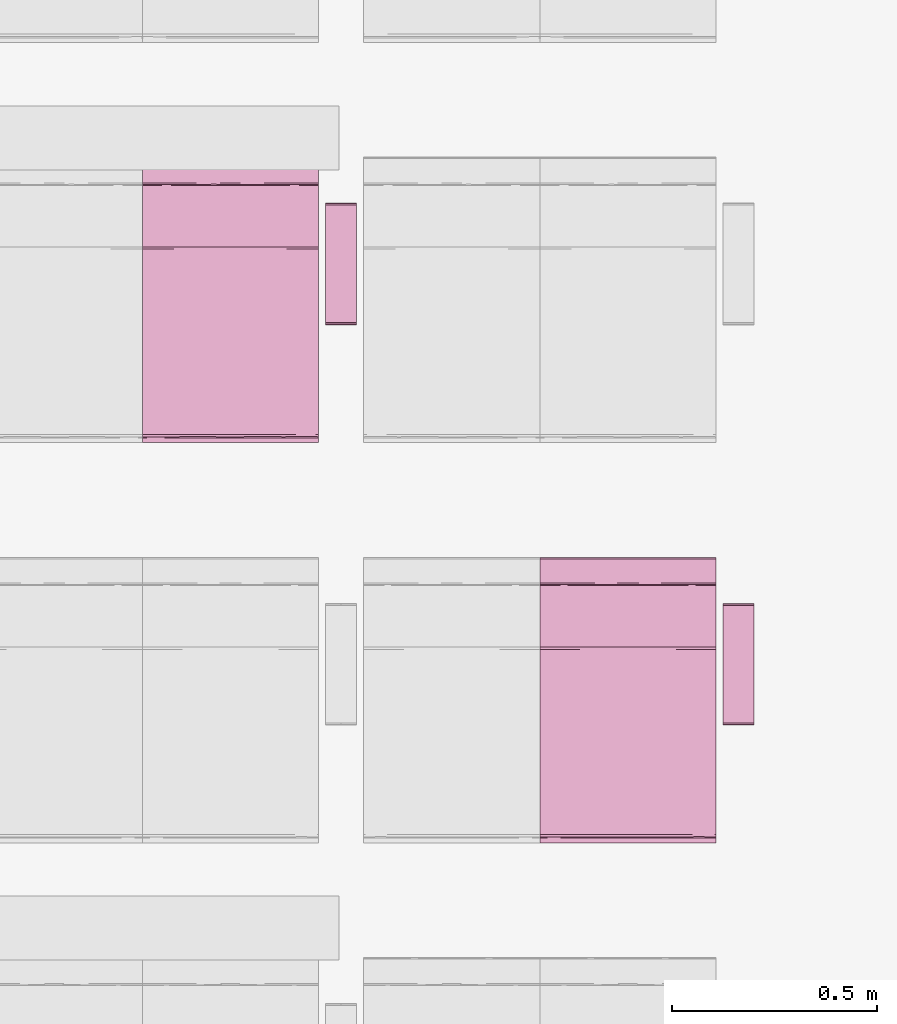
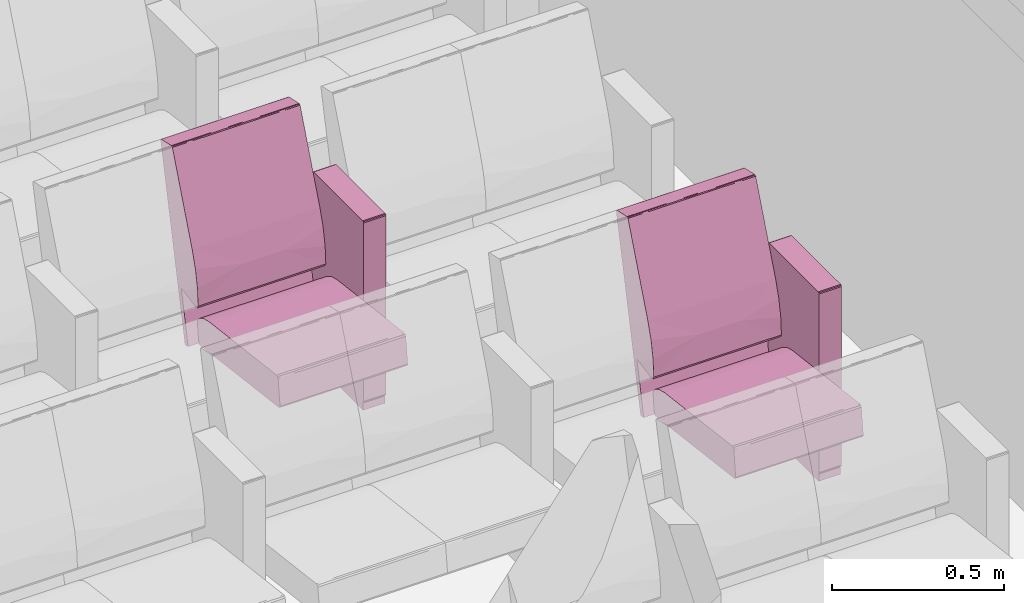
# One storey, part 137 of 155: 2 furnishings.
"""IFC2X3 building model written with IfcOpenShell, lengths in metres."""

from ifc_helpers import new_model, entity, si_unit, converted_unit, derived_unit, direction, frame, origin, place, context, subcontext, project, spatial, faceted_brep, source, transform, mapped, material, material_list, type_object, type_shapes, element, save


model = new_model("IFC2X3")

# Units and contexts
model_context = context("Model", 3, precision=1e-05, world=origin(), true_north=direction((6.12303176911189e-17, 1.0)))
body_context = subcontext(model_context, "Body", "Model", "MODEL_VIEW")
ifc_project = project(units=[si_unit("LENGTHUNIT", "METRE"), si_unit("AREAUNIT", "SQUARE_METRE"), si_unit("VOLUMEUNIT", "CUBIC_METRE"), converted_unit("PLANEANGLEUNIT", "DEGREE", entity("IfcRatioMeasure", 0.0174532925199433), si_unit("PLANEANGLEUNIT", "RADIAN"), dimensions=[0, 0, 0, 0, 0, 0, 0]), si_unit("MASSUNIT", "GRAM", prefix="KILO"), derived_unit("MASSDENSITYUNIT", [(si_unit("MASSUNIT", "GRAM", prefix="KILO"), 1), (si_unit("LENGTHUNIT", "METRE"), -3)]), si_unit("TIMEUNIT", "SECOND"), si_unit("FREQUENCYUNIT", "HERTZ"), si_unit("THERMODYNAMICTEMPERATUREUNIT", "DEGREE_CELSIUS"), derived_unit("THERMALTRANSMITTANCEUNIT", [(si_unit("MASSUNIT", "GRAM", prefix="KILO"), 1), (si_unit("THERMODYNAMICTEMPERATUREUNIT", "KELVIN"), -1), (si_unit("TIMEUNIT", "SECOND"), -3)]), derived_unit("VOLUMETRICFLOWRATEUNIT", [(si_unit("LENGTHUNIT", "METRE"), 3), (si_unit("TIMEUNIT", "SECOND"), -1)]), si_unit("ELECTRICCURRENTUNIT", "AMPERE"), si_unit("ELECTRICVOLTAGEUNIT", "VOLT"), si_unit("POWERUNIT", "WATT"), si_unit("FORCEUNIT", "NEWTON", prefix="KILO"), si_unit("ILLUMINANCEUNIT", "LUX"), si_unit("LUMINOUSFLUXUNIT", "LUMEN"), si_unit("LUMINOUSINTENSITYUNIT", "CANDELA"), derived_unit("USERDEFINED", [(si_unit("MASSUNIT", "GRAM", prefix="KILO"), -1), (si_unit("LENGTHUNIT", "METRE"), -2), (si_unit("TIMEUNIT", "SECOND"), 3), (si_unit("LUMINOUSFLUXUNIT", "LUMEN"), 1)]), derived_unit("LINEARVELOCITYUNIT", [(si_unit("LENGTHUNIT", "METRE"), 1), (si_unit("TIMEUNIT", "SECOND"), -1)]), si_unit("PRESSUREUNIT", "PASCAL"), derived_unit("USERDEFINED", [(si_unit("LENGTHUNIT", "METRE"), -2), (si_unit("MASSUNIT", "GRAM", prefix="KILO"), 1), (si_unit("TIMEUNIT", "SECOND"), -2)])], contexts=[model_context])

# Site, building, storey, space
site_placement = place(None, frame((26.9889013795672, -17.5624287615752, 0.0)))
site = spatial("IfcSite", under=ifc_project, at=site_placement, Name="Default", CompositionType="ELEMENT")
building_placement = place(site_placement, origin())
building = spatial("IfcBuilding", under=site, at=building_placement, Name="C. C. L. Monsenhor Antônio Sampaio", CompositionType="ELEMENT")
storey_placement = place(building_placement, frame((0.0, 0.0, 1.19999999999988)))
storey = spatial("IfcBuildingStorey", under=building, at=storey_placement, Name="Nível 1.2", CompositionType="ELEMENT", Elevation=1.19999999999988)
space_placement = place(storey_placement, origin())
space = spatial("IfcSpace", under=storey, at=space_placement, Name="94", CompositionType="ELEMENT", InteriorOrExteriorSpace="INTERNAL")

# Furnishings
ifc_material_1 = material(Name="V9 - V9 - Ecopelle_672_658")
ifc_material_2 = material(Name="V9 - V9 - RAL_9006_Grigio")
ifc_material_list_1 = material_list([ifc_material_1, ifc_material_2])
ifc_material_list_2 = material_list([ifc_material_1, ifc_material_2])
furniture_type = type_object("IfcFurnitureType", Name="Cadeira auditório", material=ifc_material_list_2)
shared_shape = source(origin(), body_context, "Body", "Brep", [
    faceted_brep([(0.405536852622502, -0.1075, 0.339809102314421), (0.410560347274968, -0.131924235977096, 0.34246450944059), (0.405536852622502, -0.156348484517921, 0.339809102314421), (0.41079981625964, -0.0179166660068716, 0.342749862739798), (0.410597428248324, -0.084060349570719, 0.342506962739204), (0.405536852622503, -0.0537499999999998, 0.339809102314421), (0.410248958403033, -0.173608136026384, 0.342130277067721), (0.405536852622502, -0.215, 0.339809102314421), (0.412515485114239, -0.143333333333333, 0.348529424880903), (0.412515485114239, -0.185674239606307, 0.348529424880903), (0.405536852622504, 0.1075, 0.33980910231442), (0.405536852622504, 0.156348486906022, 0.33980910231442), (0.410560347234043, 0.131924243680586, 0.342464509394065), (0.405536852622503, 0.0, 0.33980910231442), (0.411170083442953, 0.0341365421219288, 0.343251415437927), (0.41251548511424, 0.0, 0.348529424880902), (0.412515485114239, -0.0358333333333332, 0.348529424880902), (0.412515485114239, -0.0716666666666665, 0.348529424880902), (0.41251548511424, 0.143333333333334, 0.348529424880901), (0.41059742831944, 0.0840603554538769, 0.342506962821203), (0.405536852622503, 0.0537500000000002, 0.33980910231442), (0.410248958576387, 0.173608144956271, 0.342130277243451), (0.410799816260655, 0.215, 0.342749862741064), (0.412515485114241, 0.185674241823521, 0.348529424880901), (0.412515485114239, -0.215, 0.348529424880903), (0.410799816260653, -0.215, 0.342749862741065), (0.412515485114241, 0.215, 0.348529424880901), (0.41251548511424, 0.0716666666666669, 0.348529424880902), (0.405536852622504, 0.215, 0.33980910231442), (-0.0557900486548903, -0.215, 0.28268145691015), (-0.0557900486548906, -0.1881249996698, 0.282681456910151), (-0.0557900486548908, -0.161250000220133, 0.282681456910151), (-0.055790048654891, -0.134374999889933, 0.282681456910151), (-0.0557900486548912, -0.107499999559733, 0.282681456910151), (-0.0557900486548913, -0.0806250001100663, 0.282681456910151), (-0.0557900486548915, -0.0537499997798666, 0.282681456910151), (-0.0557900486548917, -0.0268749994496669, 0.282681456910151), (-0.0557900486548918, 0.0, 0.28268145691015), (-0.0557900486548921, 0.0268750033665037, 0.282681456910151), (-0.0557900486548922, 0.0537499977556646, 0.282681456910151), (-0.0557900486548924, 0.0806249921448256, 0.282681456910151), (-0.0557900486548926, 0.107499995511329, 0.282681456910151), (-0.0557900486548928, 0.138065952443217, 0.282681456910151), (-0.055790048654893, 0.168631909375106, 0.282681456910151), (-0.0557900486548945, 0.215, 0.28268145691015), (-0.0594787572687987, -0.0179017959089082, 0.283700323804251), (-0.0613666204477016, 0.0, 0.287029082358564), (-0.0594787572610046, 0.0152829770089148, 0.283700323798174), (-0.0594787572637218, -0.215, 0.283700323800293), (-0.0613666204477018, -0.215, 0.287029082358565), (-0.0613666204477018, -0.191815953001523, 0.287029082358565), (-0.0613666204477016, -0.030565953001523, 0.287029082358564), (-0.0593340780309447, -0.0671874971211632, 0.283591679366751), (-0.0593337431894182, 0.184174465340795, 0.283591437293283), (-0.0594787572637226, 0.215, 0.283700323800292), (-0.0593023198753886, 0.0940625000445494, 0.283568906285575), (-0.0613666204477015, 0.0611319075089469, 0.287029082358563), (-0.0613666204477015, 0.0916978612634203, 0.287029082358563), (-0.0613666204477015, 0.122263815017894, 0.287029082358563), (-0.0597338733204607, -0.147039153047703, 0.283913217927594), (-0.0613666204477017, -0.122263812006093, 0.287029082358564), (-0.059382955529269, -0.118123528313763, 0.28362747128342), (-0.0592501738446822, -0.180223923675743, 0.283532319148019), (-0.0613666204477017, -0.168631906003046, 0.287029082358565), (-0.0588783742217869, -0.0926899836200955, 0.283298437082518), (-0.0613666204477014, 0.168631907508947, 0.287029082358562), (-0.0613666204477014, 0.215, 0.287029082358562), (-0.0592576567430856, 0.123736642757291, 0.283537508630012), (-0.0594787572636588, 0.153348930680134, 0.283700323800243), (-0.0613666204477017, -0.0916978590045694, 0.287029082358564), (-0.0613666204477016, 0.0305659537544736, 0.287029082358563), (-0.059645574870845, 0.045848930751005, 0.283836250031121), (-0.0613666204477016, -0.0611319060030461, 0.287029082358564), (-0.0693403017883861, 0.143333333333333, 0.351419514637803), (-0.069340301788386, 0.215, 0.351419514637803), (-0.0693403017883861, -0.215, 0.351419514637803), (-0.0693403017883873, -0.143333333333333, 0.351419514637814), (-0.069340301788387, -0.0716666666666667, 0.351419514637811), (-0.0693403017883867, 0.0, 0.351419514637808), (-0.0693403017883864, 0.0716666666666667, 0.351419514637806), (-0.0653387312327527, -0.0126787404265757, 0.368680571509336), (-0.0645543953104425, -0.112272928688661, 0.369803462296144), (-0.0597085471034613, 0.0, 0.37476954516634), (-0.0655136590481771, 0.104400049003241, 0.368411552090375), (-0.0681665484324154, 0.0888707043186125, 0.36292533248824), (-0.0694879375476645, -0.0590582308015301, 0.356377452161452), (-0.0695056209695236, 0.125492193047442, 0.356093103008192), (-0.0597085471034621, 0.110316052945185, 0.374769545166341), (-0.0676206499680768, -0.215, 0.364371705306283), (-0.0672851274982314, -0.108066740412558, 0.365148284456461), (-0.0690003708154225, -0.132942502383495, 0.359900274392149), (-0.068624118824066, -0.215, 0.356813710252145), (-0.0686241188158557, 0.214999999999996, 0.356813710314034), (-0.0694502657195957, 0.0358333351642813, 0.356863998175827), (-0.0686999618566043, -0.035833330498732, 0.36116674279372), (-0.067620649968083, 0.214999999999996, 0.364371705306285), (-0.063664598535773, 0.214999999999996, 0.369570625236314), (-0.0597085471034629, 0.214999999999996, 0.374769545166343), (-0.0597085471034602, -0.110316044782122, 0.374769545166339), (-0.0636645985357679, -0.215, 0.36957062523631), (-0.0597085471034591, -0.215, 0.374769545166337), (-0.0018793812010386, -0.215, 0.398686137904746), (-0.0324117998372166, -0.0436847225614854, 0.39063968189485), (-0.0324117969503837, -0.215, 0.390639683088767), (-0.041847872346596, 0.0856576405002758, 0.386239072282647), (-0.00187938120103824, 0.102488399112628, 0.398686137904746), (-0.00187938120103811, 0.215, 0.398686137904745), (-0.0324117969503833, 0.215, 0.390639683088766), (-0.0219042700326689, 0.0570631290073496, 0.394412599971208), (-0.00187938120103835, 0.0, 0.398686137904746), (0.392202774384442, -0.215, 0.447486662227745), (0.392202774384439, -0.156349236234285, 0.447486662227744), (0.392202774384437, -0.107499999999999, 0.447486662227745), (0.392202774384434, -0.0537499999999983, 0.447486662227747), (0.392202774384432, 0.0, 0.447486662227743), (0.392202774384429, 0.0537500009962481, 0.44748666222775), (0.392202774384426, 0.107500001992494, 0.447486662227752), (0.392202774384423, 0.156349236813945, 0.447486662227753), (0.392202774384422, 0.215, 0.447486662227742), (0.397860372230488, 0.0827732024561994, 0.446039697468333), (0.401125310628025, 0.0976984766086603, 0.440530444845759), (0.398104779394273, 0.131924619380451, 0.445856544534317), (0.397373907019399, 0.173462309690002, 0.446363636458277), (0.401125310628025, 0.156349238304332, 0.440530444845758), (0.401125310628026, 0.215000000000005, 0.440530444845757), (0.398104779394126, 0.215000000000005, 0.445856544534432), (0.397860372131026, -0.0827731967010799, 0.446039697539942), (0.398104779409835, -0.131924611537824, 0.445856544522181), (0.398104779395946, -0.0268749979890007, 0.445856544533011), (0.398104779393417, 0.0237489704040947, 0.445856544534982), (0.401125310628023, -0.0488492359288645, 0.440530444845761), (0.401125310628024, 0.0488492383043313, 0.44053044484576), (0.398774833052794, -0.173462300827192, 0.445271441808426), (0.401125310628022, -0.0976984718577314, 0.440530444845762), (0.39810477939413, -0.215, 0.445856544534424), (0.401125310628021, -0.215, 0.440530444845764), (0.401125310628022, -0.156349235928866, 0.440530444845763), (0.401125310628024, 0.0, 0.44053044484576)], [[[0, 1, 2]], [[3, 4, 5]], [[2, 6, 7]], [[8, 9, 6]], [[10, 11, 12]], [[13, 3, 5]], [[3, 14, 15]], [[1, 4, 8]], [[6, 1, 8]], [[4, 3, 16]], [[16, 17, 8, 4]], [[12, 18, 19]], [[4, 1, 0]], [[20, 14, 13]], [[21, 22, 23]], [[15, 16, 3]], [[9, 24, 25]], [[26, 23, 22]], [[7, 6, 25]], [[12, 11, 21]], [[19, 14, 20]], [[4, 0, 5]], [[14, 27, 15]], [[13, 14, 3]], [[19, 18, 27]], [[19, 10, 12]], [[18, 21, 23]], [[10, 19, 20]], [[19, 27, 14]], [[2, 1, 6]], [[21, 11, 28]], [[25, 6, 9]], [[18, 12, 21]], [[22, 21, 28]], [[28, 11, 10, 20, 13, 5, 0, 2, 7, 29, 30, 31, 32, 33, 34, 35, 36, 37, 38, 39, 40, 41, 42, 43, 44]], [[45, 46, 47]], [[48, 49, 50]], [[51, 45, 52]], [[53, 54, 44]], [[55, 56, 57, 58]], [[59, 60, 61]], [[62, 63, 59]], [[34, 64, 52]], [[53, 65, 66]], [[41, 67, 42]], [[37, 36, 35, 45, 47, 38]], [[43, 42, 68]], [[29, 48, 30]], [[59, 31, 62]], [[62, 48, 50]], [[61, 69, 64]], [[65, 53, 68]], [[50, 63, 62]], [[62, 30, 48]], [[55, 58, 67]], [[32, 31, 59]], [[46, 70, 47]], [[65, 68, 58]], [[55, 40, 71]], [[70, 56, 71]], [[61, 33, 32]], [[59, 63, 60]], [[39, 38, 71, 40]], [[47, 71, 38]], [[51, 46, 45]], [[70, 71, 47]], [[71, 56, 55]], [[40, 55, 41]], [[67, 68, 42]], [[43, 68, 53]], [[43, 53, 44]], [[66, 54, 53]], [[68, 67, 58]], [[55, 67, 41]], [[72, 51, 52, 69]], [[62, 31, 30]], [[59, 61, 32]], [[35, 52, 45]], [[64, 34, 33]], [[34, 52, 35]], [[61, 60, 69]], [[52, 64, 69]], [[61, 64, 33]], [[73, 74, 66, 65, 58, 57, 56, 70, 46, 51, 72, 69, 60, 63, 50, 49, 75, 76, 77, 78, 79]], [[80, 81, 82]], [[83, 84, 80]], [[85, 78, 77, 76]], [[73, 79, 86]], [[80, 82, 83]], [[87, 83, 82]], [[88, 89, 90]], [[76, 75, 91]], [[92, 74, 73]], [[91, 90, 85]], [[80, 89, 81]], [[84, 93, 94]], [[84, 86, 93]], [[93, 78, 85]], [[73, 86, 92]], [[94, 93, 85]], [[95, 92, 84]], [[78, 93, 79]], [[80, 84, 94]], [[83, 96, 95]], [[94, 85, 90]], [[87, 97, 96]], [[98, 99, 100]], [[91, 85, 76]], [[94, 90, 89]], [[90, 91, 88]], [[89, 80, 94]], [[89, 99, 81]], [[89, 88, 99]], [[82, 81, 98]], [[81, 99, 98]], [[92, 86, 84]], [[93, 86, 79]], [[84, 83, 95]], [[96, 83, 87]], [[101, 102, 103]], [[104, 97, 87, 82]], [[105, 106, 107]], [[107, 108, 105]], [[109, 102, 101]], [[82, 102, 104]], [[102, 108, 104]], [[103, 102, 100]], [[97, 104, 107]], [[104, 108, 107]], [[102, 82, 98, 100]], [[105, 108, 109]], [[108, 102, 109]], [[109, 101, 110, 111, 112, 113, 114, 115, 116, 117, 118, 106, 105]], [[119, 120, 121]], [[122, 123, 124]], [[122, 125, 118]], [[126, 113, 112]], [[117, 121, 122]], [[121, 117, 116]], [[112, 111, 127]], [[113, 128, 129, 115, 114]], [[126, 130, 128]], [[129, 131, 119]], [[111, 132, 127]], [[132, 111, 110]], [[133, 126, 127]], [[123, 122, 121]], [[132, 134, 135]], [[127, 132, 136]], [[123, 121, 120]], [[127, 136, 133]], [[129, 128, 130, 137, 131]], [[112, 127, 126]], [[126, 133, 130]], [[119, 121, 116]], [[113, 126, 128]], [[119, 115, 129]], [[119, 116, 115]], [[120, 119, 131]], [[117, 122, 118]], [[124, 125, 122]], [[136, 132, 135]], [[110, 134, 132]], [[137, 130, 133, 136, 135, 24, 9, 8, 17, 16, 15, 27, 18, 23, 26, 124, 123, 120, 131]], [[44, 54, 66, 74, 92, 95, 96, 97, 107, 106, 118, 125, 124, 26, 22, 28]], [[75, 49, 48, 29, 7, 25, 24, 135, 134, 110, 101, 103, 100, 99, 88, 91]]]),
    faceted_brep([(0.119812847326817, 0.27, 0.674900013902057), (0.12334838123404, 0.259944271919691, 0.6734355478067), (0.123144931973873, 0.283972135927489, 0.673627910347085), (0.124812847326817, 0.27, 0.669900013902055), (0.119812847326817, 0.232, 0.674900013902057), (0.12334838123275, 0.232, 0.673435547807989), (0.124812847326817, 0.308, 0.669900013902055), (0.119812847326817, 0.308, 0.674900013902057), (0.124812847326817, 0.249888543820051, 0.669900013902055), (0.124812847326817, 0.232, 0.669900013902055), (0.12334838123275, 0.308, 0.673435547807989), (0.124812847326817, 0.232, 0.0349999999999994), (0.124812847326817, 0.27, 0.035), (0.124812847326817, 0.308, 0.035), (0.12334838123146, 0.25994427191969, 0.0314644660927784), (0.123540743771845, 0.283972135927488, 0.0316679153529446), (0.119812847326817, 0.27, 0.0300000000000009), (0.12334838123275, 0.232, 0.0314644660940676), (0.119812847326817, 0.308, 0.0300000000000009), (0.119812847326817, 0.249888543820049, 0.030000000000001), (0.119812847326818, 0.232, 0.030000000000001), (0.123348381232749, 0.308, 0.0314644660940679), (-0.167179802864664, 0.27, 0.0300000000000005), (-0.167179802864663, 0.308, 0.0300000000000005), (-0.167179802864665, 0.232, 0.0300000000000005), (-0.170715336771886, 0.25994427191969, 0.0314644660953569), (-0.17051188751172, 0.283972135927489, 0.0312721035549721), (-0.172179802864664, 0.27, 0.0350000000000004), (-0.170715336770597, 0.232, 0.0314644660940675), (-0.172179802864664, 0.308, 0.0350000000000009), (-0.172179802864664, 0.24988854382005, 0.0350000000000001), (-0.172179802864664, 0.232, 0.0349999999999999), (-0.170715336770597, 0.308, 0.0314644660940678), (-0.172179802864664, 0.308, 0.669900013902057), (-0.172179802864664, 0.232, 0.669900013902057), (-0.172179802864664, 0.27, 0.669900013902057), (-0.170715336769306, 0.259944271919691, 0.673435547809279), (-0.170907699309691, 0.283972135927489, 0.673232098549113), (-0.167179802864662, 0.27, 0.674900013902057), (-0.170715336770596, 0.232, 0.67343554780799), (-0.167179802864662, 0.308, 0.674900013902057), (-0.167179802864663, 0.249888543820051, 0.674900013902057), (-0.167179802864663, 0.232, 0.674900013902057), (-0.170715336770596, 0.308, 0.67343554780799)], [[[0, 1, 2]], [[3, 2, 1]], [[0, 4, 5, 1]], [[2, 3, 6]], [[0, 2, 7]], [[8, 3, 1, 5, 9]], [[7, 2, 10]], [[6, 10, 2]], [[9, 11, 12, 13, 6, 3, 8]], [[12, 14, 15]], [[16, 15, 14]], [[12, 11, 17, 14]], [[15, 16, 18]], [[12, 15, 13]], [[19, 16, 14, 17, 20]], [[13, 15, 21]], [[18, 21, 15]], [[22, 23, 18, 16, 19, 20, 24]], [[22, 25, 26]], [[27, 26, 25]], [[22, 24, 28, 25]], [[26, 27, 29]], [[22, 26, 23]], [[30, 27, 25, 28, 31]], [[23, 26, 32]], [[29, 32, 26]], [[33, 29, 27, 30, 31, 34, 35]], [[35, 36, 37]], [[38, 37, 36]], [[35, 34, 39, 36]], [[37, 38, 40]], [[35, 37, 33]], [[41, 38, 36, 39, 42]], [[33, 37, 43]], [[40, 43, 37]], [[0, 7, 40, 38, 41, 42, 4]], [[42, 39, 34, 31, 28, 24, 20, 17, 11, 9, 5, 4]], [[23, 32, 29, 33, 43, 40, 7, 10, 6, 13, 21, 18]]]),
    faceted_brep([(-0.0655618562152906, -0.215, 0.415143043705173), (-0.0744051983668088, -0.0524423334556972, 0.506888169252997), (-0.0695672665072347, -0.215, 0.476508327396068), (-0.0655618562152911, 0.0, 0.415143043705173), (-0.0744051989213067, 0.0780075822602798, 0.506888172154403), (-0.0655618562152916, 0.1075, 0.415143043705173), (-0.0655618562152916, 0.215, 0.415143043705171), (-0.0655618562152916, -0.1075, 0.415143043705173), (-0.0695672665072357, 0.215, 0.476508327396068), (-0.0811110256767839, 0.215, 0.536911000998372), (-0.0811110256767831, -0.215, 0.536911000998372), (-0.100016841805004, 0.0, 0.595428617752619), (-0.100016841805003, -0.215, 0.595428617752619), (-0.100016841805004, 0.215, 0.595428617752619), (-0.0792851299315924, -0.0716666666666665, 0.404772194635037), (-0.0792851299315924, 0.0, 0.404772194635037), (-0.0698317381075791, -0.0358333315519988, 0.406528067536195), (-0.0698317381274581, 0.215, 0.406528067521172), (-0.0792851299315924, 0.143333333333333, 0.404772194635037), (-0.0792851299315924, 0.215, 0.404772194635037), (-0.0698317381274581, -0.215, 0.406528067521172), (-0.0792851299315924, -0.215, 0.404772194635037), (-0.0792851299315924, -0.143333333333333, 0.404772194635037), (-0.0694171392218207, -0.140338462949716, 0.406857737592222), (-0.0708115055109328, 0.0356393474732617, 0.405868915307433), (-0.0703502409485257, 0.107500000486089, 0.406159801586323), (-0.0792851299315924, 0.0716666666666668, 0.404772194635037), (-0.163837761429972, 0.215, 0.420611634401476), (-0.163837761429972, -0.215, 0.420611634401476), (-0.123612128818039, -0.215, 0.235917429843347), (-0.123612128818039, 0.215, 0.235917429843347), (-0.142059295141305, -0.215, 0.231899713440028), (-0.142059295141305, 0.215, 0.231899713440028), (-0.235388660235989, -0.215, 0.652619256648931), (-0.235388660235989, 0.215, 0.652619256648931), (-0.28428001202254, 0.0, 0.873004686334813), (-0.284280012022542, 0.0268749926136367, 0.873004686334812), (-0.284280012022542, 0.0537499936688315, 0.873004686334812), (-0.284280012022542, 0.0806249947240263, 0.873004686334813), (-0.284280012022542, 0.107499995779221, 0.873004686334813), (-0.284280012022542, 0.134374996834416, 0.873004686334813), (-0.284280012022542, 0.161249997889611, 0.873004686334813), (-0.284280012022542, 0.191295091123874, 0.873004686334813), (-0.28428001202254, 0.215, 0.873004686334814), (-0.284280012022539, -0.215, 0.873004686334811), (-0.28428001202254, -0.191295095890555, 0.873004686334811), (-0.284280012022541, -0.161249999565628, 0.873004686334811), (-0.284280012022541, -0.134374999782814, 0.873004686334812), (-0.284280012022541, -0.1075, 0.873004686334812), (-0.284280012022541, -0.0806250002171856, 0.873004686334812), (-0.284280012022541, -0.0537500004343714, 0.873004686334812), (-0.284280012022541, -0.0268749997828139, 0.873004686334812), (-0.283504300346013, -0.0569644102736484, 0.877068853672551), (-0.283746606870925, -0.0872244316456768, 0.876674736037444), (-0.283641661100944, 0.12093750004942, 0.876855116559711), (-0.283567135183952, 0.15546176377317, 0.876973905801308), (-0.28330409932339, -0.185293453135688, 0.877344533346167), (-0.283567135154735, -0.155461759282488, 0.876973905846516), (-0.280514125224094, 0.0, 0.879190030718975), (-0.280514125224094, 0.0358333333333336, 0.879190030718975), (-0.283641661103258, 0.0136463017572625, 0.876855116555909), (-0.283641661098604, -0.0179166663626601, 0.876855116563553), (-0.280514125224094, -0.0358333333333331, 0.879190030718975), (-0.280514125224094, 0.1075, 0.879190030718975), (-0.280514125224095, 0.143333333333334, 0.879190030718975), (-0.283746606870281, 0.0872244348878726, 0.876674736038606), (-0.280514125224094, 0.071666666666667, 0.879190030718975), (-0.280514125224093, -0.1075, 0.879190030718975), (-0.280514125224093, -0.0716666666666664, 0.879190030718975), (-0.280514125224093, -0.143333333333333, 0.879190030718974), (-0.283641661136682, -0.120937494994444, 0.876855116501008), (-0.283641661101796, -0.215, 0.876855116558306), (-0.283641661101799, 0.215, 0.876855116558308), (-0.280514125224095, 0.167590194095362, 0.879190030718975), (-0.283304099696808, 0.18529345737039, 0.877344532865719), (-0.280514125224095, 0.215, 0.879190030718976), (-0.280514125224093, -0.167590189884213, 0.879190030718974), (-0.280514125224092, -0.215, 0.879190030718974), (-0.283504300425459, 0.0569644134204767, 0.8770688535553), (-0.221112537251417, -0.215, 0.892176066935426), (-0.221112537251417, -0.19181594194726, 0.892176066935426), (-0.221112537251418, -0.16124999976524, 0.892176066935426), (-0.221112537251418, -0.13437499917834, 0.892176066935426), (-0.221112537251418, -0.10749999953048, 0.892176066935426), (-0.221112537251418, -0.08062499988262, 0.892176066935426), (-0.221112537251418, -0.0537500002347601, 0.892176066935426), (-0.221112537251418, -0.0268750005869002, 0.892176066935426), (-0.221112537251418, 0.0, 0.892176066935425), (-0.221112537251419, 0.0268750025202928, 0.892176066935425), (-0.221112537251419, 0.053749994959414, 0.892176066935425), (-0.221112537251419, 0.0806249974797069, 0.892176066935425), (-0.221112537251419, 0.1075, 0.892176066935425), (-0.221112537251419, 0.134375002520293, 0.892176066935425), (-0.221112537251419, 0.161250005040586, 0.892176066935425), (-0.221112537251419, 0.191815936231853, 0.892176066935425), (-0.221112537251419, 0.215, 0.892176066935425), (-0.217722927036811, -0.0162353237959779, 0.891719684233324), (-0.215419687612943, -0.0358333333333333, 0.889191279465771), (-0.215419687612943, 0.0, 0.889191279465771), (-0.217722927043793, 0.0134375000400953, 0.891719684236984), (-0.217722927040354, 0.120937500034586, 0.89171968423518), (-0.217722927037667, 0.0912646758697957, 0.891719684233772), (-0.215419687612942, 0.0716666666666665, 0.88919127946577), (-0.215419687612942, 0.1075, 0.88919127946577), (-0.215419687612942, 0.143333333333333, 0.88919127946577), (-0.217722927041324, 0.215, 0.891719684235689), (-0.217722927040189, 0.182482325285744, 0.891719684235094), (-0.215419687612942, 0.168631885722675, 0.889191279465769), (-0.215419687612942, 0.191815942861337, 0.889191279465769), (-0.215419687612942, 0.215, 0.889191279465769), (-0.217722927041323, -0.215, 0.89171968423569), (-0.215419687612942, -0.215, 0.889191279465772), (-0.215419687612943, -0.191815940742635, 0.889191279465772), (-0.217722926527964, -0.190103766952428, 0.891719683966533), (-0.2179983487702, 0.039082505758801, 0.891853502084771), (-0.217816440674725, 0.0647800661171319, 0.891767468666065), (-0.217558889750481, 0.155982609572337, 0.891629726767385), (-0.217722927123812, -0.120937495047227, 0.891719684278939), (-0.217558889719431, -0.15598260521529, 0.891629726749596), (-0.215419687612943, -0.143333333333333, 0.889191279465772), (-0.215419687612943, -0.16863188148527, 0.889191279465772), (-0.215419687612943, -0.0716666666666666, 0.889191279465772), (-0.217816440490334, -0.0647800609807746, 0.891767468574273), (-0.217722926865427, -0.0912646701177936, 0.891719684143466), (-0.215419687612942, 0.0358333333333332, 0.889191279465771), (-0.215419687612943, -0.1075, 0.889191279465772), (-0.218257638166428, -0.0404491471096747, 0.891961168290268)], [[[0, 1, 2]], [[3, 4, 1]], [[4, 3, 5, 6]], [[1, 0, 7, 3]], [[8, 4, 6]], [[9, 4, 8]], [[1, 10, 2]], [[1, 11, 12]], [[9, 13, 4]], [[13, 11, 4]], [[10, 1, 12]], [[11, 1, 4]], [[14, 15, 16]], [[17, 18, 19]], [[20, 21, 22]], [[20, 23, 0]], [[3, 7, 16]], [[15, 24, 16]], [[24, 25, 5]], [[22, 23, 20]], [[7, 23, 16]], [[6, 5, 17]], [[16, 24, 3]], [[16, 23, 14]], [[23, 22, 14]], [[18, 25, 26]], [[18, 17, 25]], [[26, 24, 15]], [[7, 0, 23]], [[5, 25, 17]], [[25, 24, 26]], [[3, 24, 5]], [[27, 19, 18, 26, 15, 14, 22, 21, 28]], [[27, 28, 29, 30]], [[31, 32, 30, 29]], [[33, 34, 32, 31]], [[35, 36, 37, 38, 39, 40, 41, 42, 43, 34, 33, 44, 45, 46, 47, 48, 49, 50, 51]], [[52, 49, 53]], [[54, 55, 40]], [[46, 56, 57]], [[58, 59, 60, 61, 62]], [[54, 63, 64]], [[65, 66, 63]], [[67, 68, 53]], [[57, 69, 70]], [[45, 56, 46]], [[39, 54, 40]], [[45, 44, 71]], [[72, 43, 42]], [[35, 51, 61, 60, 36]], [[55, 73, 74]], [[39, 65, 54]], [[74, 73, 75]], [[67, 53, 70]], [[74, 42, 41]], [[64, 73, 55]], [[56, 76, 57]], [[74, 72, 42]], [[76, 56, 77]], [[56, 71, 77]], [[57, 76, 69]], [[48, 70, 53]], [[70, 48, 47]], [[60, 78, 36]], [[63, 54, 65]], [[71, 56, 45]], [[41, 55, 74]], [[72, 74, 75]], [[57, 70, 47]], [[47, 46, 57]], [[69, 67, 70]], [[50, 49, 52, 51]], [[52, 62, 61]], [[61, 51, 52]], [[55, 41, 40]], [[55, 54, 64]], [[66, 65, 78]], [[65, 38, 78]], [[52, 53, 68]], [[37, 36, 78, 38]], [[78, 59, 66]], [[59, 78, 60]], [[49, 48, 53]], [[65, 39, 38]], [[52, 68, 62]], [[79, 80, 81, 82, 83, 84, 85, 86, 87, 88, 89, 90, 91, 92, 93, 94, 95, 75, 73, 64, 63, 66, 59, 58, 62, 68, 67, 69, 76, 77]], [[96, 97, 98, 99]], [[100, 101, 102, 103, 104]], [[105, 106, 107, 108, 109]], [[110, 111, 112]], [[80, 110, 113]], [[89, 114, 115]], [[92, 116, 93]], [[94, 93, 106, 105, 95]], [[80, 79, 110]], [[92, 91, 90, 101, 100]], [[99, 88, 87, 86, 96]], [[104, 107, 116]], [[117, 83, 82]], [[117, 118, 119]], [[112, 120, 113]], [[118, 120, 119]], [[118, 81, 113]], [[116, 107, 106]], [[101, 90, 115]], [[121, 122, 123]], [[104, 116, 100]], [[110, 112, 113]], [[114, 99, 124]], [[92, 100, 116]], [[117, 125, 123]], [[82, 81, 118]], [[118, 117, 82]], [[83, 117, 123]], [[125, 117, 119]], [[102, 101, 115]], [[84, 83, 123]], [[123, 125, 121]], [[85, 84, 122]], [[89, 115, 90]], [[96, 86, 126]], [[124, 102, 115]], [[88, 99, 114]], [[99, 98, 124]], [[122, 121, 97]], [[126, 122, 97]], [[88, 114, 89]], [[115, 114, 124]], [[123, 122, 84]], [[126, 85, 122]], [[85, 126, 86]], [[96, 126, 97]], [[116, 106, 93]], [[80, 113, 81]], [[118, 113, 120]], [[12, 11, 13, 109, 108, 107, 104, 103, 102, 124, 98, 97, 121, 125, 119, 120, 112, 111]], [[30, 32, 34, 43, 72, 75, 95, 105, 109, 13, 9, 8, 6, 17, 19, 27]], [[77, 71, 44, 33, 31, 29, 28, 21, 20, 0, 2, 10, 12, 111, 110, 79]]]),
    faceted_brep([(0.120312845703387, 0.2335, 0.0), (0.120312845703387, 0.3065, 0.0), (0.120312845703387, 0.3065, 0.0260000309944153), (0.120312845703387, 0.27, 0.0260000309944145), (0.120312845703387, 0.249500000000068, 0.0260000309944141), (0.120312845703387, 0.2335, 0.0260000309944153), (-0.167687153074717, 0.2335, 0.0), (-0.167687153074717, 0.3065, 0.0), (-0.167687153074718, 0.3065, 0.0260000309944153), (-0.167687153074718, 0.2335, 0.0260000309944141), (-0.167687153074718, 0.27, 0.0260000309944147), (-0.163702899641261, 0.233500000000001, 0.0300000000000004), (-0.166521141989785, 0.257382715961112, 0.0288228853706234), (-0.166521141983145, 0.233500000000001, 0.0288228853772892), (-0.166521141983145, 0.3065, 0.0288228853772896), (-0.16652114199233, 0.279986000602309, 0.0288228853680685), (-0.163702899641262, 0.3065, 0.0300000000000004), (-0.163702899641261, 0.27, 0.0300000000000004), (0.116297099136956, 0.2335, 0.0300000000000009), (0.116297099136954, 0.270000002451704, 0.0300000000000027), (0.116297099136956, 0.3065, 0.0300000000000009), (0.119033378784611, 0.283124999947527, 0.0289323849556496), (0.119135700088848, 0.259750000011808, 0.0288340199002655), (0.1191357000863, 0.2335, 0.0288340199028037), (0.119135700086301, 0.3065, 0.0288340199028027)], [[[0, 1, 2, 3, 4, 5]], [[6, 7, 1, 0]], [[8, 7, 6, 9, 10]], [[11, 12, 13]], [[14, 15, 16]], [[17, 16, 15, 12, 11]], [[13, 12, 10, 9]], [[8, 15, 14]], [[12, 15, 8, 10]], [[16, 17, 11, 18, 19, 20]], [[3, 2, 21]], [[22, 19, 18, 23]], [[22, 23, 5, 4, 3]], [[20, 21, 24]], [[22, 3, 21]], [[19, 21, 20]], [[2, 24, 21]], [[19, 22, 21]], [[20, 24, 2, 1, 7, 8, 14, 16]], [[18, 11, 13, 9, 6, 0, 5, 23]]]),
])
type_shapes(furniture_type, [shared_shape])
furnishing_1_placement = place(space_placement, frame((-6.66594929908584, -12.3788058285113, 0.0), z_axis=(0.0, 0.0, 1.0), x_axis=(0.0, -1.0, 0.0)))
element("IfcFurnishingElement", 1, at=furnishing_1_placement, inside=space, type_object=furniture_type, material=ifc_material_list_1, Name="cadeira auditório pcd:Cadeira auditório", ObjectType="Cadeira auditório", context=body_context, shape_type="MappedRepresentation", body=[
    mapped(shared_shape, transform((0.0, 0.0, 0.0), scale=1.0)),
])
ifc_material_list_3 = material_list([ifc_material_1, ifc_material_2])
furnishing_2_placement = place(space_placement, frame((-7.63594929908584, -11.4021989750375, 0.0), z_axis=(0.0, 0.0, 1.0), x_axis=(0.0, -1.0, 0.0)))
element("IfcFurnishingElement", 2, at=furnishing_2_placement, inside=space, type_object=furniture_type, material=ifc_material_list_3, Name="cadeira auditório pcd:Cadeira auditório", ObjectType="Cadeira auditório", context=body_context, shape_type="MappedRepresentation", body=[
    mapped(shared_shape, transform((0.0, 0.0, 0.0), scale=1.0)),
])

save(model, "model.ifc")
